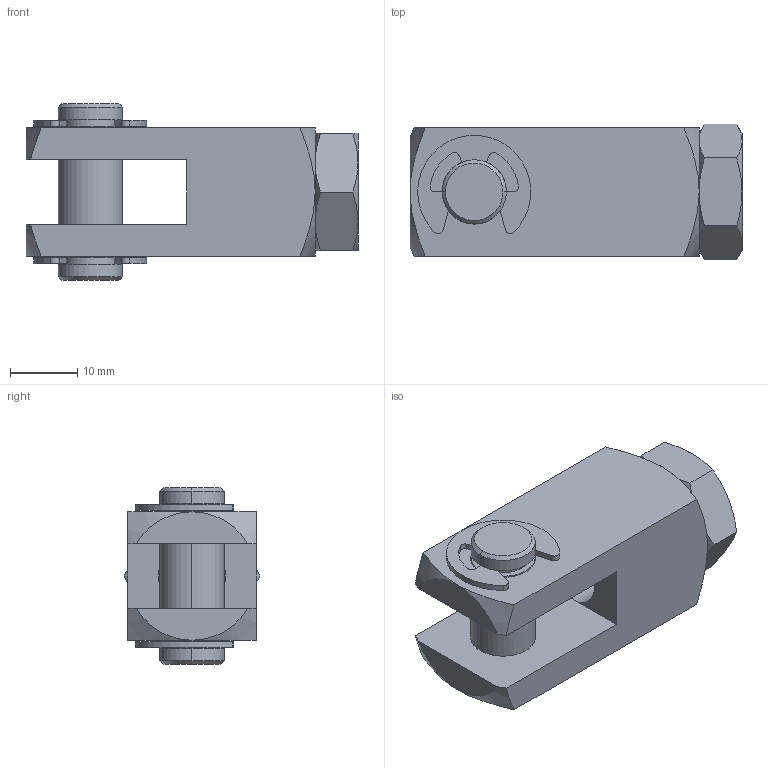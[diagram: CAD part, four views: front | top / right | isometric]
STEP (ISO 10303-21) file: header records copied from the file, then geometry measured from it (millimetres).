
FILE_DESCRIPTION((''),'2;1');
FILE_NAME('M127005_ASM','2018-01-18T',('MeFernandez'),('ASCO Numatics'),'PRO/ENGINEER BY PARAMETRIC TECHNOLOGY CORPORATION, 2015030','PRO/ENGINEER BY PARAMETRIC TECHNOLOGY CORPORATION, 2015030','');
FILE_SCHEMA(('CONFIG_CONTROL_DESIGN'));
Length unit declared in the file: inch
Products named in the file (3): M127005_CLEVIS-PIN; M190003; M127005_ASM
Assembly tree (2 placements, depth 2):
  M127005_ASM
    M127005_CLEVIS-PIN
    M190003
Bounding box: 49.21 x 20.15 x 26.19 mm (x, y, z)
Volume: 12099.3 mm3; surface area: 7161.3 mm2
Topology: 3 solids, 3 shells, 113 faces, 290 edges, 176 vertices
Faces by surface type: plane 47, cylinder 36, cone 30
Entity records: 3730 total; most frequent: CARTESIAN_POINT 868, DIRECTION 604, ORIENTED_EDGE 580, EDGE_CURVE 290, AXIS2_PLACEMENT_3D 240, VERTEX_POINT 176, VECTOR 124, LINE 124
